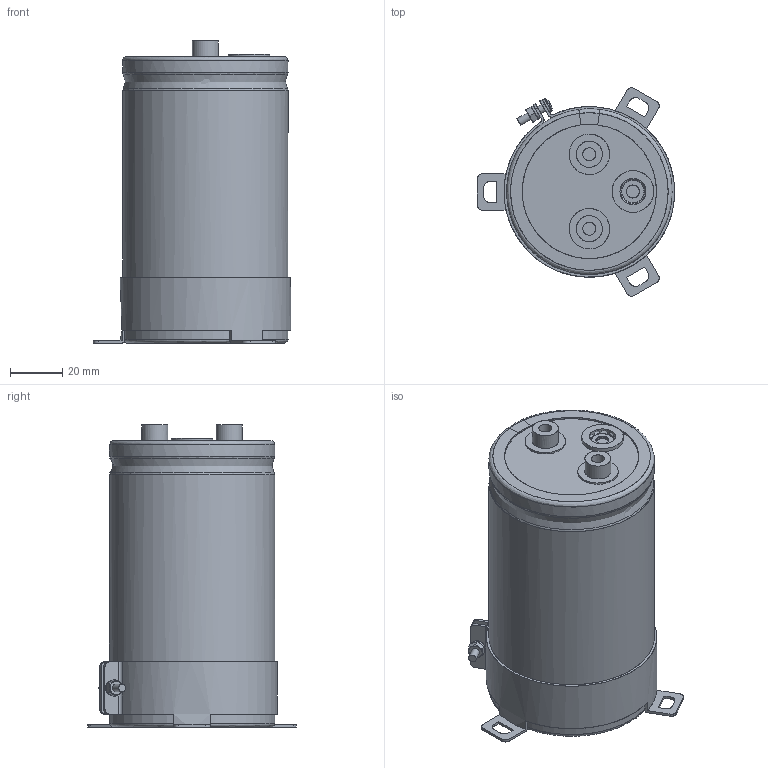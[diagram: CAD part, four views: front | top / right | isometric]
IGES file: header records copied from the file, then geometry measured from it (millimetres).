
Start section: JAMA-IS VERSION  1.0
Bounding box: 75.75 x 80.01 x 116 mm (x, y, z)
Surface area: 86934.7 mm2 (no closed solid volume)
Topology: 0 solids, 0 shells, 259 faces, 4436 edges, 4409 vertices
Faces by surface type: bspline 259
